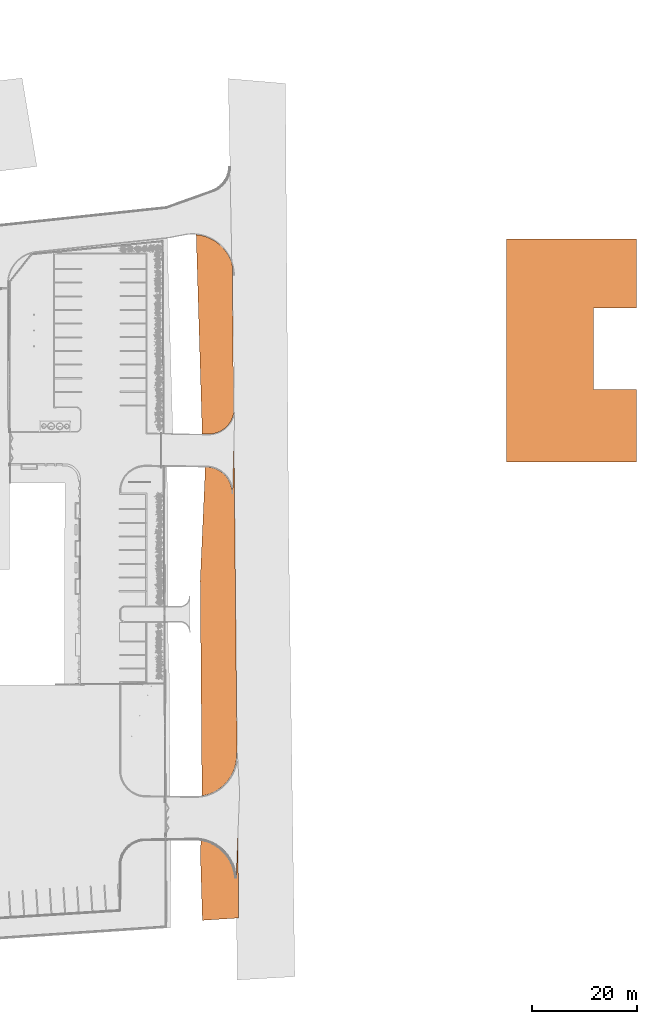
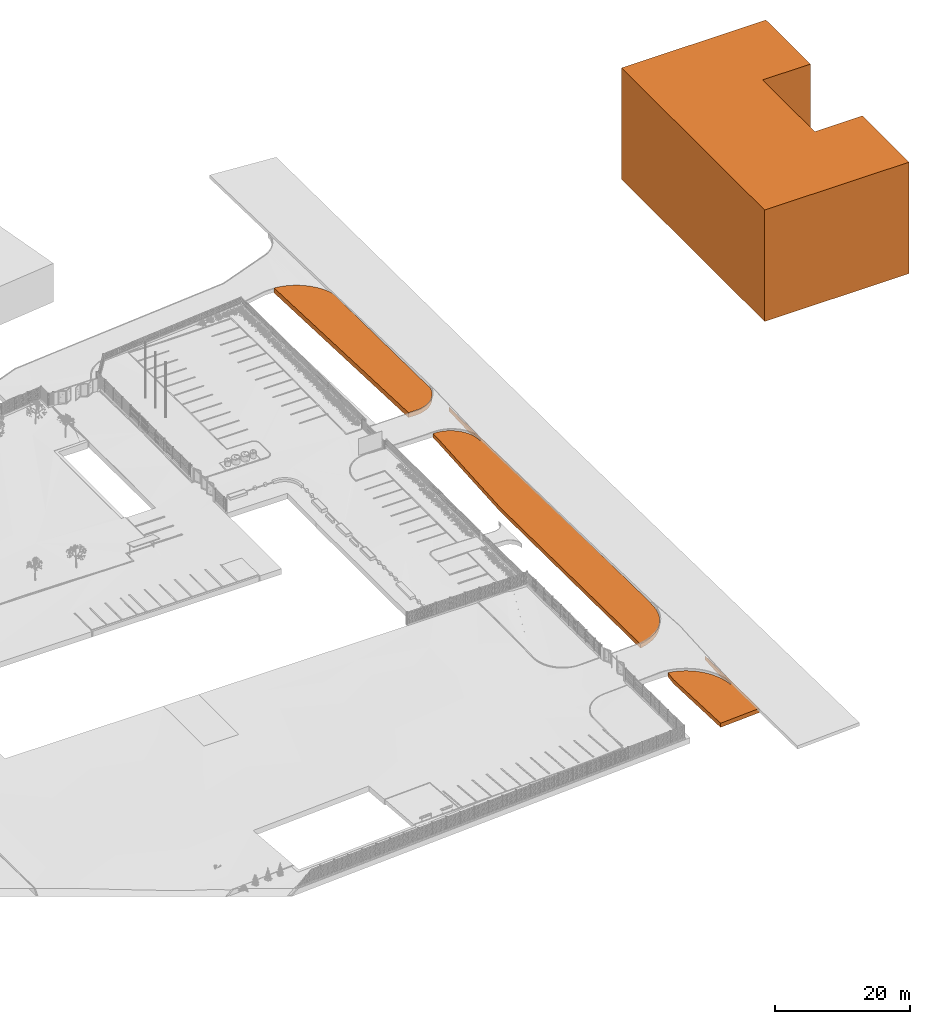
# One storey, part 42 of 1809: 4 proxies.
"""IFC2X3 building model written with IfcOpenShell, lengths in millimetres."""

import ifcopenshell
import ifcopenshell.guid

model = None  # the IFC model being written
_history = None  # IfcOwnerHistory: only IFC2X3 demands one
_inside = {}  # id of a spatial element -> (the spatial element, [elements in it])
_under = {}  # id of a project, library or spatial element -> (it, [spatial elements below it])
_declared = {}  # id of a project -> (the project, [libraries it declares])
_typed = {}  # id of a type object -> (the type object, [elements of that type])
_made_of = {}  # id of a material, layer set ... -> (it, [elements and type objects made of it])


def new_model(schema):
    """Start an empty IFC model of exactly this schema.

    Asked for "IFC4X3", IfcOpenShell would pick the latest addendum, in which some entities
    have other attributes; the version numbers below select the first issue.
    IFC2X3 requires an IfcOwnerHistory on every rooted entity: one is made here for all.
    """
    global model, _history
    if schema == "IFC4X3":
        model = ifcopenshell.file(schema_version=(4, 3, 0, 0))
    else:
        model = ifcopenshell.file(schema=schema)
    _inside.clear()
    _under.clear()
    _declared.clear()
    _typed.clear()
    _made_of.clear()
    _history = None
    if model.schema == "IFC2X3":
        org = make("IfcOrganization", Name="unknown")
        user = make(
            "IfcPersonAndOrganization",
            ThePerson=make("IfcPerson", FamilyName="unknown"),
            TheOrganization=org,
        )
        app = make(
            "IfcApplication",
            ApplicationDeveloper=org,
            Version="unknown",
            ApplicationFullName="unknown",
            ApplicationIdentifier="unknown",
        )
        _history = make(
            "IfcOwnerHistory",
            OwningUser=user,
            OwningApplication=app,
            ChangeAction="ADDED",
            CreationDate=0,
        )
    return model


def make(cls, **values):
    """One entity of the class cls with the attributes given. An attribute that is None is left unset."""
    return model.create_entity(
        cls, **{name: value for name, value in values.items() if value is not None}
    )


def entity(cls, *values):
    """Any entity or typed value of the class cls, its attributes in the order of the schema. None: left unset."""
    e = model.create_entity(cls)
    for i, value in enumerate(values):
        if value is not None:
            e[i] = value
    return e


def rooted(cls, **values):
    """An entity with a GlobalId (a new one), such as an element, a storey or a relation."""
    return make(cls, GlobalId=ifcopenshell.guid.new(), OwnerHistory=_history, **values)


def si_unit(unit_type, name, prefix=None):
    """IfcSIUnit, for example si_unit("LENGTHUNIT", "METRE", prefix="MILLI")."""
    return make("IfcSIUnit", UnitType=unit_type, Prefix=prefix, Name=name)


def converted_unit(unit_type, name, factor, base, dimensions=None, offset=None):
    """IfcConversionBasedUnit, such as the inch: factor (a typed value) times the base unit."""
    return make(
        "IfcConversionBasedUnit"
        if offset is None
        else "IfcConversionBasedUnitWithOffset",
        ConversionOffset=offset,
        Dimensions=None
        if dimensions is None
        else entity("IfcDimensionalExponents", *dimensions),
        UnitType=unit_type,
        Name=name,
        ConversionFactor=make(
            "IfcMeasureWithUnit", ValueComponent=factor, UnitComponent=base
        ),
    )


def derived_unit(unit_type, elements):
    """IfcDerivedUnit: a product of units, each with its exponent."""
    return make(
        "IfcDerivedUnit",
        Elements=[
            make("IfcDerivedUnitElement", Unit=unit, Exponent=power)
            for unit, power in elements
        ],
        UnitType=unit_type,
    )


def money_unit(currency):
    """IfcMonetaryUnit."""
    return make("IfcMonetaryUnit", Currency=currency)


def assignment(units):
    """IfcUnitAssignment: the units of a project."""
    return None if units is None else make("IfcUnitAssignment", Units=units)


def point(xyz):
    """IfcCartesianPoint."""
    return None if xyz is None else make("IfcCartesianPoint", Coordinates=xyz)


def direction(xyz):
    """IfcDirection."""
    return None if xyz is None else make("IfcDirection", DirectionRatios=xyz)


def frame(location, z_axis=None, x_axis=None):
    """IfcAxis2Placement3D, a coordinate frame: its origin and axes. An axis left out is left unset."""
    return make(
        "IfcAxis2Placement3D",
        Location=point(location),
        Axis=direction(z_axis),
        RefDirection=direction(x_axis),
    )


def frame_2d(location, x_axis=None):
    """IfcAxis2Placement2D, a coordinate frame in the plane: its origin and x axis."""
    return make(
        "IfcAxis2Placement2D", Location=point(location), RefDirection=direction(x_axis)
    )


def origin_with_axes():
    """The frame at (0, 0, 0) with the z axis (0, 0, 1) and the x axis (1, 0, 0) written out."""
    return frame((0.0, 0.0, 0.0), z_axis=(0.0, 0.0, 1.0), x_axis=(1.0, 0.0, 0.0))


def place(relative_to, where):
    """IfcLocalPlacement: puts the frame where relative to a parent placement (None: the world)."""
    return make(
        "IfcLocalPlacement", PlacementRelTo=relative_to, RelativePlacement=where
    )


def context(
    kind, dimensions, precision=None, world=None, true_north=None, identifier=None
):
    """IfcGeometricRepresentationContext, for example the 3D "Model" context."""
    return make(
        "IfcGeometricRepresentationContext",
        ContextIdentifier=identifier,
        ContextType=kind,
        CoordinateSpaceDimension=dimensions,
        Precision=precision,
        WorldCoordinateSystem=world,
        TrueNorth=true_north,
    )


def subcontext(parent, identifier, kind, view, scale=None):
    """IfcGeometricRepresentationSubContext, for example "Body" below "Model"."""
    return make(
        "IfcGeometricRepresentationSubContext",
        ContextIdentifier=identifier,
        ContextType=kind,
        ParentContext=parent,
        TargetScale=scale,
        TargetView=view,
    )


def project(units=None, contexts=None):
    """IfcProject with its units and contexts."""
    return rooted(
        "IfcProject",
        Name="project",
        RepresentationContexts=contexts,
        UnitsInContext=assignment(units),
    )


def spatial(cls, under=None, at=None, **own):
    """A site, building, storey or space (cls), placed at a placement, below another one or the project."""
    s = rooted(cls, ObjectPlacement=at, **own)
    if under is not None:
        _under.setdefault(under.id(), (under, []))[1].append(s)
    return s


def polyline(points):
    """IfcPolyline through the points."""
    return make("IfcPolyline", Points=[point(p) for p in points])


def circle_curve(where, radius):
    """IfcCircle in the frame where."""
    return make("IfcCircle", Position=where, Radius=radius)


def parameter(value):
    """IfcParameterValue: where a trimmed curve begins or ends, as a parameter of its basis curve."""
    return model.create_entity("IfcParameterValue", value)


def trimmed(basis, trim1, trim2, sense, master):
    """IfcTrimmedCurve: the piece of a basis curve between two trims."""
    return make(
        "IfcTrimmedCurve",
        BasisCurve=basis,
        Trim1=trim1,
        Trim2=trim2,
        SenseAgreement=sense,
        MasterRepresentation=master,
    )


def segment(curve, same_sense, transition):
    """IfcCompositeCurveSegment."""
    return make(
        "IfcCompositeCurveSegment",
        Transition=transition,
        SameSense=same_sense,
        ParentCurve=curve,
    )


def composite_curve(segments, self_intersect=None):
    """IfcCompositeCurve: segments joined end to end."""
    return make("IfcCompositeCurve", Segments=segments, SelfIntersect=self_intersect)


def outline(outer, holes=None, kind="AREA"):
    """IfcArbitraryClosedProfileDef: a profile drawn as a closed curve; with holes, ...WithVoids."""
    if holes is None:
        return make("IfcArbitraryClosedProfileDef", ProfileType=kind, OuterCurve=outer)
    return make(
        "IfcArbitraryProfileDefWithVoids",
        ProfileType=kind,
        OuterCurve=outer,
        InnerCurves=holes,
    )


def extrude(swept, where, along, depth):
    """IfcExtrudedAreaSolid: the profile swept, set in the frame where, extruded along a direction by depth."""
    return make(
        "IfcExtrudedAreaSolid",
        SweptArea=swept,
        Position=where,
        ExtrudedDirection=direction(along),
        Depth=depth,
    )


def shape(context_of_items, identifier, shape_type, items):
    """IfcShapeRepresentation: the items that make up one representation, for example the "Body"."""
    return make(
        "IfcShapeRepresentation",
        ContextOfItems=context_of_items,
        RepresentationIdentifier=identifier,
        RepresentationType=shape_type,
        Items=items,
    )


def material(Name=None, Category=None):
    """IfcMaterial."""
    return make("IfcMaterial", Name=Name, Category=Category)


def made_of(thing, what):
    """Note that an element or type object is made of a material, layer set ...; save() writes the relation."""
    if what is not None:
        _made_of.setdefault(what.id(), (what, []))[1].append(thing)
    return thing


def type_object(cls, material=None, **own):
    """A type object (cls), such as IfcWallType, which elements share."""
    return made_of(rooted(cls, **own), material)


def element(
    cls,
    number,
    at=None,
    inside=None,
    cuts=None,
    type_object=None,
    material=None,
    context=None,
    identifier="Body",
    shape_type=None,
    held_by="IfcProductDefinitionShape",
    body=None,
    shapes=None,
    **own,
):
    """One element of the class cls, such as IfcWall. Its Tag is "e" and its number.

    at: its placement. inside: the storey or other place that contains it. cuts: it is an
    opening in that element (IfcRelVoidsElement). A single representation is given by context,
    identifier, shape_type and body (its items); several are given by shapes. held_by: the class
    of the entity that holds the representations. save() writes the other relations.
    """
    e = rooted(cls, Tag="e%d" % number, ObjectPlacement=at, **own)
    if body is not None:
        shapes = [shape(context, identifier, shape_type, body)]
    if shapes is not None:
        e.Representation = make(held_by, Representations=shapes)
    if inside is not None:
        _inside.setdefault(inside.id(), (inside, []))[1].append(e)
    if cuts is not None:
        rooted(
            "IfcRelVoidsElement", RelatingBuildingElement=cuts, RelatedOpeningElement=e
        )
    if type_object is not None:
        _typed.setdefault(type_object.id(), (type_object, []))[1].append(e)
    return made_of(e, material)


def aggregate(whole, parts):
    """IfcRelAggregates: a whole, such as a stair, and the parts it consists of."""
    return rooted("IfcRelAggregates", RelatingObject=whole, RelatedObjects=parts)


def save(model, path):
    """Write the relations noted so far, then the file.

    IfcRelAggregates (storeys below a building ...), IfcRelContainedInSpatialStructure (elements
    in a storey), IfcRelDefinesByType, IfcRelAssociatesMaterial and IfcRelDeclares: one each for
    every whole, place, type object, material and project.
    """
    for whole, parts in _under.values():
        aggregate(whole, parts)
    for where, things in _inside.values():
        rooted(
            "IfcRelContainedInSpatialStructure",
            RelatedElements=things,
            RelatingStructure=where,
        )
    for kind, things in _typed.values():
        rooted("IfcRelDefinesByType", RelatedObjects=things, RelatingType=kind)
    for what, things in _made_of.values():
        rooted("IfcRelAssociatesMaterial", RelatedObjects=things, RelatingMaterial=what)
    for by, libraries in _declared.values():
        rooted("IfcRelDeclares", RelatingContext=by, RelatedDefinitions=libraries)
    model.write(path)


model = new_model("IFC2X3")

# Units and contexts
model_context = context("Model", 3, precision=0.01, world=origin_with_axes(), true_north=direction((0.0, 1.0)))
body_context = subcontext(model_context, "Body", "Model", "MODEL_VIEW")
ifc_project = project(units=[si_unit("LENGTHUNIT", "METRE", prefix="MILLI"), si_unit("AREAUNIT", "SQUARE_METRE"), si_unit("VOLUMEUNIT", "CUBIC_METRE"), converted_unit("PLANEANGLEUNIT", "DEGREE", entity("IfcPlaneAngleMeasure", 0.0174532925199), si_unit("PLANEANGLEUNIT", "RADIAN"), dimensions=[0, 0, 0, 0, 0, 0, 0]), si_unit("SOLIDANGLEUNIT", "STERADIAN"), money_unit("EUR"), converted_unit("TIMEUNIT", "Year", entity("IfcTimeMeasure", 31556926.0), si_unit("TIMEUNIT", "SECOND"), dimensions=[0, 0, 1, 0, 0, 0, 0]), si_unit("MASSUNIT", "GRAM", prefix="KILO"), si_unit("THERMODYNAMICTEMPERATUREUNIT", "DEGREE_CELSIUS"), si_unit("LUMINOUSINTENSITYUNIT", "LUMEN"), si_unit("ENERGYUNIT", "JOULE", prefix="MEGA"), derived_unit("THERMALCONDUCTANCEUNIT", [(si_unit("POWERUNIT", "WATT"), 1), (si_unit("LENGTHUNIT", "METRE"), -1), (si_unit("THERMODYNAMICTEMPERATUREUNIT", "KELVIN"), -1)]), derived_unit("SPECIFICHEATCAPACITYUNIT", [(si_unit("ENERGYUNIT", "JOULE"), 1), (si_unit("MASSUNIT", "GRAM", prefix="KILO"), -1), (si_unit("THERMODYNAMICTEMPERATUREUNIT", "KELVIN"), -1)]), derived_unit("MASSDENSITYUNIT", [(si_unit("MASSUNIT", "GRAM", prefix="KILO"), 1), (si_unit("VOLUMEUNIT", "CUBIC_METRE"), -1)])], contexts=[model_context])

# Site, building, storey
site_placement = place(None, origin_with_axes())
site = spatial("IfcSite", under=ifc_project, at=site_placement, Name="Politse- ja Piirivalveameti ning Päästeameti ühishoone", CompositionType="ELEMENT")
building_placement = place(site_placement, origin_with_axes())
building = spatial("IfcBuilding", under=site, at=building_placement, Name="Politse- ja Piirivalveameti ning Päästeameti ühishoone", CompositionType="ELEMENT")
storey_placement = place(building_placement, origin_with_axes())
storey = spatial("IfcBuildingStorey", under=building, at=storey_placement, Name="Esimene korrus", CompositionType="ELEMENT", Elevation=0.0)

# Proxies
ifc_material = material(Name="VKK-00_GENEERILINE - VÄLINE KESKKOND")
building_element_proxy_type_1 = type_object("IfcBuildingElementProxyType", Name="VKK-00_GENEERILINE - VÄLINE KESKKOND 20200", PredefinedType="NOTDEFINED")
proxy_1_placement = place(storey_placement, frame((154276.015217, 41977.0534853, 19481.3232879), z_axis=(0.0, 0.0, 1.0), x_axis=(1.0, 0.0, 0.0)))
element("IfcBuildingElementProxy", 1, at=proxy_1_placement, inside=storey, type_object=building_element_proxy_type_1, material=ifc_material, Name="KÕRVALHOONE", context=body_context, shape_type="SweptSolid", body=[
    extrude(outline(polyline([(0.0, 0.0), (24769.4901731, 0.0), (24769.4901731, 13861.8247758), (16588.7411251, 13861.8247758), (16588.7411251, 29314.3507553), (24769.4901731, 29314.3507553), (24769.4901731, 42494.4464437), (0.0, 42494.4464437), (0.0, 0.0)])), frame((0.0, 0.0, -20200.0), z_axis=(0.0, 0.0, 1.0), x_axis=(1.0, 0.0, 0.0)), (0.0, 0.0, 1.0), 20200.0),
])
building_element_proxy_type_2 = type_object("IfcBuildingElementProxyType", Name="VKK-00_GENEERILINE - VÄLINE KESKKOND 889", PredefinedType="NOTDEFINED")
proxy_2_placement = place(storey_placement, frame((102036.220434, 79688.2689297, -212.314164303), z_axis=(0.0, 0.0, 1.0), x_axis=(1.0, 0.0, 0.0)))
element("IfcBuildingElementProxy", 2, at=proxy_2_placement, inside=storey, type_object=building_element_proxy_type_2, material=ifc_material, Name="KÕRVALMAAPIND", context=body_context, shape_type="SweptSolid", body=[
    extrude(outline(composite_curve([segment(trimmed(circle_curve(frame_2d((-7620.28636881, -2343.28194026), x_axis=(0.955829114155, 0.293922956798)), 7972.435926), [point((0.0, 0.0)), parameter(0.0)], [point((-6860.94366094, 5592.90941619)), parameter(67.4415562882)], True, "CARTESIAN"), True, "CONTINUOUS"), segment(polyline([(-6860.94366094, 5592.90941619), (-5712.12134683, -32354.7603441), (-4432.57222244, -32374.2887682)]), True, "CONTINUOUS"), segment(trimmed(circle_curve(frame_2d((-4491.52590471, -27522.487524), x_axis=(0.0121499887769, -0.999926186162)), 4852.15940074), [point((-4432.57222244, -32374.2887682)), parameter(0.0)], [point((280.550038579, -28400.4066784)), parameter(78.8796898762)], True, "CARTESIAN"), True, "CONTINUOUS"), segment(polyline([(280.550038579, -28400.4066784), (0.0, 0.0)]), True, "CONTINUOUS")], self_intersect=False)), frame((0.0, 0.0, -888.938095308), z_axis=(0.0, 0.0, 1.0), x_axis=(1.0, 0.0, 0.0)), (0.0, 0.0, 1.0), 888.938095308),
])
building_element_proxy_type_3 = type_object("IfcBuildingElementProxyType", Name="VKK-00_GENEERILINE - VÄLINE KESKKOND 750", PredefinedType="NOTDEFINED")
proxy_3_placement = place(storey_placement, frame((95944.0096973, 19409.7663485, -351.25225961), z_axis=(0.0, 0.0, 1.0), x_axis=(1.0, 0.0, 0.0)))
element("IfcBuildingElementProxy", 3, at=proxy_3_placement, inside=storey, type_object=building_element_proxy_type_3, material=ifc_material, Name="KÕRVALMAAPIND", context=body_context, shape_type="SweptSolid", body=[
    extrude(outline(composite_curve([segment(polyline([(0.0, 0.0), (335.71243712, -40976.5541127)]), True, "CONTINUOUS"), segment(trimmed(circle_curve(frame_2d((-934.696569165, -33213.9614165), x_axis=(0.161509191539, -0.986871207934)), 7865.86196229), [point((335.71243712, -40976.5541127)), parameter(0.0)], [point((6916.15941913, -32728.3230111)), parameter(84.2451873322)], True, "CARTESIAN"), True, "CONTINUOUS"), segment(polyline([(6916.15941913, -32728.3230111), (7011.81571651, -32814.1790023), (6427.25624885, 26361.4557375), (6193.33996548, 18030.0634659), (6179.81870452, 16567.7064458), (6036.92908471, 16572.0034256)]), True, "CONTINUOUS"), segment(trimmed(circle_curve(frame_2d((1113.58926791, 16694.0822169), x_axis=(0.999692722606, -0.0247883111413)), 4924.85311283), [point((6036.92908471, 16572.0034256)), parameter(0.0)], [point((1475.96437929, 21605.5852925)), parameter(87.200722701)], True, "CARTESIAN"), True, "CONTINUOUS"), segment(polyline([(1475.96437929, 21605.5852925), (889.412752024, 21613.6197785), (928.997318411, 20627.0264636), (0.0, 0.0)]), True, "CONTINUOUS")], self_intersect=False)), frame((0.0, 0.0, -750.0), z_axis=(0.0, 0.0, 1.0), x_axis=(1.0, 0.0, 0.0)), (0.0, 0.0, 1.0), 750.0),
])
proxy_4_placement = place(storey_placement, frame((96131.2187795, -30000.1398519, -351.25225961), z_axis=(0.0, 0.0, 1.0), x_axis=(1.0, 0.0, 0.0)))
element("IfcBuildingElementProxy", 4, at=proxy_4_placement, inside=storey, type_object=building_element_proxy_type_3, material=ifc_material, Name="KÕRVALMAAPIND", context=body_context, shape_type="SweptSolid", body=[
    extrude(outline(composite_curve([segment(polyline([(0.0, 0.0), (-179.334041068, -1923.02069143), (223.438453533, -15275.9841276), (7134.93481874, -14819.1558148), (6978.72568204, 994.076760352), (6647.92565502, -7192.5339308), (6494.72456586, -7189.78021769)]), True, "CONTINUOUS"), segment(trimmed(circle_curve(frame_2d((-1336.28874412, -7735.42709682), x_axis=(0.997581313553, 0.0695091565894)), 7849.99999859), [point((6494.72456586, -7189.78021769)), parameter(0.0)], [point((0.0, 0.0)), parameter(76.2131368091)], True, "CARTESIAN"), True, "CONTINUOUS")], self_intersect=False)), frame((0.0, 0.0, -750.0), z_axis=(0.0, 0.0, 1.0), x_axis=(1.0, 0.0, 0.0)), (0.0, 0.0, 1.0), 750.0),
])

save(model, "model.ifc")
